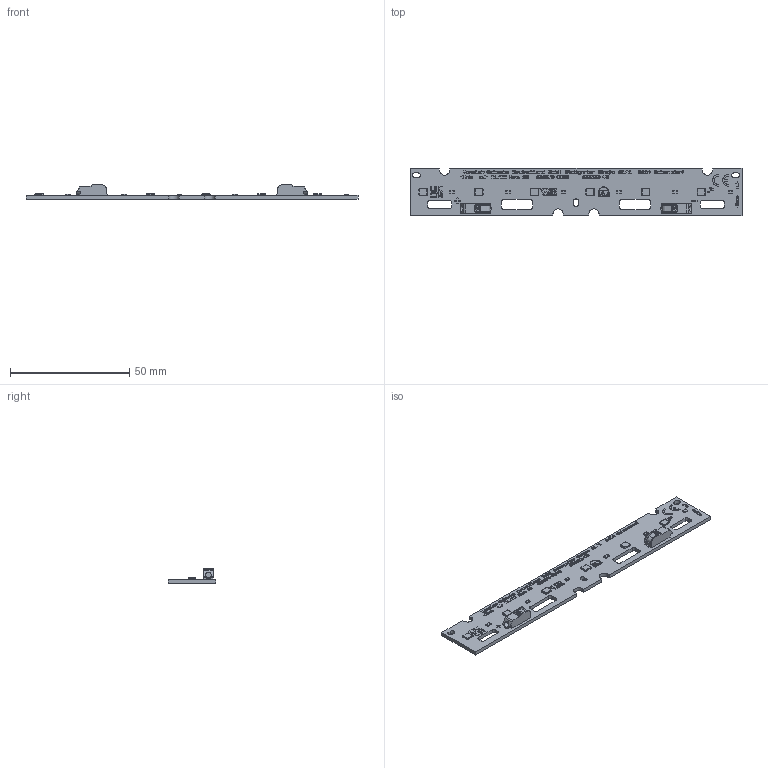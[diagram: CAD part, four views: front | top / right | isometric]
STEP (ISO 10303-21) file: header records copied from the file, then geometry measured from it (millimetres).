
FILE_DESCRIPTION(('Creo Elements/Direct Modeling STEP Export'),'2;1');
FILE_NAME('3D-Model__MLC_SC_W2_140_BTS_6R_yzz_G3 (WU-M-731-R)_TC.stp','2025-04-29T 9:52:53',(''),(''),'PTC Creo Elements/Direct Modeling STEP processor for AP214 (Solid Model)','PTC Creo Elements/Direct Modeling 19.0E 27-Jun-2016 (C) Parametric Technology GmbH','');
FILE_SCHEMA(('AUTOMOTIVE_DESIGN { 1 0 10303 214 1 1 1 1 }'));
Length unit declared in the file: millimetre
Products named in the file (147): p1.2; p1.1; p1; Print.113; Print.114; Print.108; Print.111; Print.109; Print.112; Print.105; Print.107; Print.115; Print.106; Print.110; Print.83; Print.89; Print.85; Print.90; Print.86; Print.93; Print.84; Print.87; Print.91; Print.92; Print.88; Print.1; Print; Print.2; Print.4; Print.3; Print.5; Print.6; Print.7; Print.26; Print.19; Print.21; Print.25; Print.23; Print.28; Print.24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
Assembly tree (144 placements, depth 2):
  p1.2
  p1.1
  p1
  Plate-Print
    Print.65
    Print.67
    Print.68
    Print.64
    Print.69
    Print.71
    Print.63
    Print.70
    Print.62
    Print.66
    Print.61
    Print.36
    Print.33
    Print.49
    Print.38
    Print.37
    Print.34
    Print.30
    Print.31
    Print.32
    Print.35
    Print.124
    Print.118
    Print.119
    Print.122
    Print.121
    Print.125
    Print.116
    Print.120
    Print.117
    Print.126
    Print.123
    Print.51
    Print.60
    Print.55
    Print.58
    Print.56
    Print.54
    Print.52
    Print.57
    Print.50
    Print.59
    Print.53
    Print.44
    Print.41
    Print.39
    Print.42
    Print.46
    Print.43
    Print.40
    Print.48
    Print.45
    Print.47
    Print.104
    Print.98
    Print.99
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Bounding box: 139 x 20 x 6.1 mm (x, y, z)
Volume: 4399.2 mm3; surface area: 6953.5 mm2
Topology: 145 solids, 145 shells, 3774 faces, 10336 edges, 6872 vertices
Faces by surface type: plane 2817, cylinder 953, sphere 4
Entity records: 131856 total; most frequent: CARTESIAN_POINT 18440, ORIENTED_EDGE 17864, DIRECTION 17464, EDGE_CURVE 8932, VECTOR 7148, LINE 7148, VERTEX_POINT 5952, AXIS2_PLACEMENT_3D 5158
